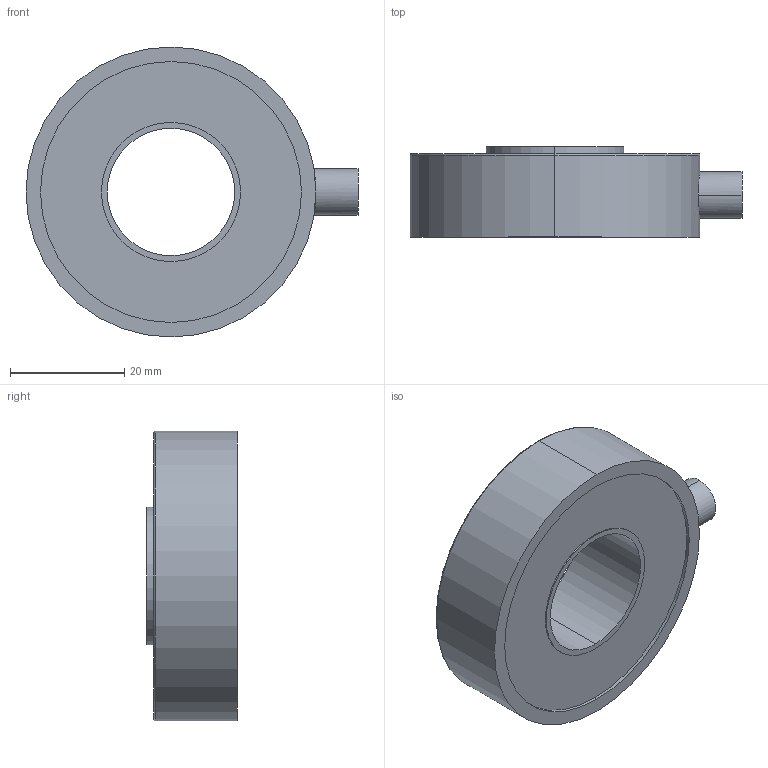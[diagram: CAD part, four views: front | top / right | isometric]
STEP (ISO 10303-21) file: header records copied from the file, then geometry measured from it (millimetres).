
FILE_DESCRIPTION (( 'STEP AP214' ), '1' );
FILE_NAME ('FINAL ASBY SS1413-5KLB.STEP', '2024-08-12T14:46:01', ( '' ), ( '' ), 'SwSTEP 2.0', 'SolidWorks 2008', '' );
FILE_SCHEMA (( 'AUTOMOTIVE_DESIGN' ));
Length unit declared in the file: inch
Products named in the file (1): FINAL ASBY SS1413-5KLB
Bounding box: 58.17 x 15.88 x 50.8 mm (x, y, z)
Volume: 23619.9 mm3; surface area: 7058.7 mm2
Topology: 1 solids, 1 shells, 20 faces, 40 edges, 26 vertices
Faces by surface type: cylinder 12, plane 6, torus 2
Entity records: 627 total; most frequent: CARTESIAN_POINT 153, DIRECTION 106, ORIENTED_EDGE 80, AXIS2_PLACEMENT_3D 47, EDGE_CURVE 40, VERTEX_POINT 26, CIRCLE 26, EDGE_LOOP 26
